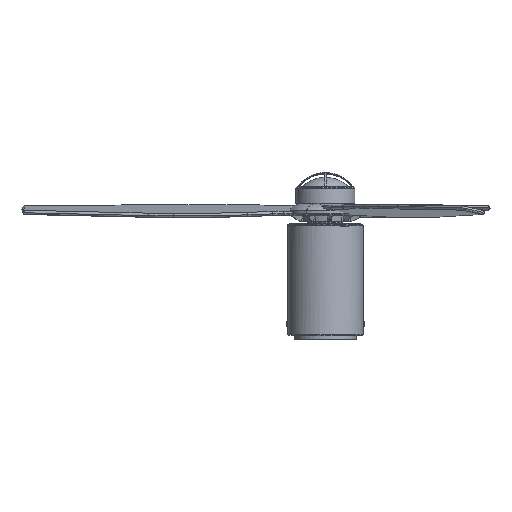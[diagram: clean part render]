
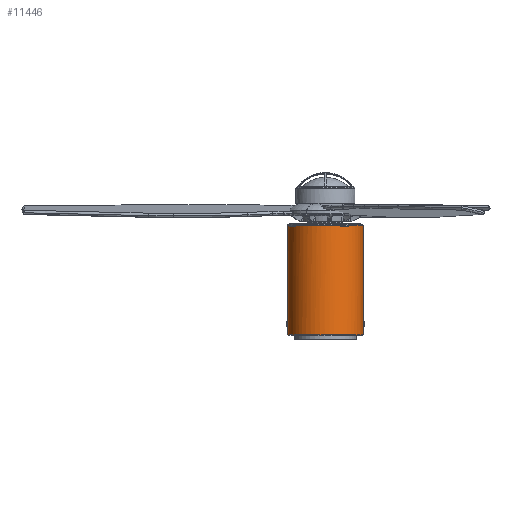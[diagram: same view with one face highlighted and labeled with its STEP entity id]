
A CAD part, left-side view. The second image highlights one B-rep face of the part: STEP entity #11446.
In plain terms, the highlighted cylindrical face has radius 80 mm (diameter 159.999 mm), a partial arc.
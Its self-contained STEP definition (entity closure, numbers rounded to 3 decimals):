
#1102=FACE_OUTER_BOUND('',#1863,.T.);
#1863=EDGE_LOOP('',(#9502,#9503,#9504,#9505));
#2543=B_SPLINE_CURVE_WITH_KNOTS('',3,(#22567,#22568,#22569,#22570,#22571,
#22572,#22573,#22574,#22575,#22576,#22577),.UNSPECIFIED.,.F.,.F.,(4,1,1,
1,1,1,1,1,4),(0.,0.125,0.25,0.375,0.5,0.625,0.75,0.875,1.),
 .UNSPECIFIED.);
#2590=B_SPLINE_CURVE_WITH_KNOTS('',3,(#23176,#23177,#23178,#23179,#23180,
#23181,#23182,#23183,#23184,#23185,#23186),.UNSPECIFIED.,.F.,.F.,(4,1,1,
1,1,1,1,1,4),(0.,0.125,0.25,0.375,0.5,0.625,0.75,0.875,1.),
 .UNSPECIFIED.);
#3707=LINE('',#23188,#4254);
#3708=LINE('',#23189,#4255);
#4254=VECTOR('',#14516,304.8);
#4255=VECTOR('',#14517,304.8);
#5095=VERTEX_POINT('',#22420);
#5096=VERTEX_POINT('',#22421);
#5141=VERTEX_POINT('',#23058);
#5142=VERTEX_POINT('',#23111);
#6594=EDGE_CURVE('',#5096,#5095,#2543,.T.);
#6647=EDGE_CURVE('',#5141,#5142,#2590,.T.);
#6648=EDGE_CURVE('',#5095,#5141,#3707,.T.);
#6649=EDGE_CURVE('',#5142,#5096,#3708,.T.);
#9502=ORIENTED_EDGE('',*,*,#6647,.T.);
#9503=ORIENTED_EDGE('',*,*,#6649,.T.);
#9504=ORIENTED_EDGE('',*,*,#6594,.T.);
#9505=ORIENTED_EDGE('',*,*,#6648,.T.);
#10919=CYLINDRICAL_SURFACE('',#12406,80.);
#11446=ADVANCED_FACE('',(#1102),#10919,.T.);
#12406=AXIS2_PLACEMENT_3D('',#23190,#14518,#14519);
#14516=DIRECTION('',(0.,0.,1.));
#14517=DIRECTION('',(0.,0.,-1.));
#14518=DIRECTION('center_axis',(0.,0.,1.));
#14519=DIRECTION('ref_axis',(0.,1.,0.));
#22420=CARTESIAN_POINT('',(0.,-80.,10.169));
#22421=CARTESIAN_POINT('',(0.,80.,10.169));
#22567=CARTESIAN_POINT('Ctrl Pts',(0.,80.,10.169));
#22568=CARTESIAN_POINT('Ctrl Pts',(-10.514,80.105,10.169));
#22569=CARTESIAN_POINT('Ctrl Pts',(-31.391,75.785,10.169));
#22570=CARTESIAN_POINT('Ctrl Pts',(-58.046,58.054,10.169));
#22571=CARTESIAN_POINT('Ctrl Pts',(-75.833,31.408,10.169));
#22572=CARTESIAN_POINT('Ctrl Pts',(-82.083,0.,
10.169));
#22573=CARTESIAN_POINT('Ctrl Pts',(-75.833,-31.408,
10.169));
#22574=CARTESIAN_POINT('Ctrl Pts',(-58.046,-58.054,
10.169));
#22575=CARTESIAN_POINT('Ctrl Pts',(-31.391,-75.785,
10.169));
#22576=CARTESIAN_POINT('Ctrl Pts',(-10.514,-80.105,10.169));
#22577=CARTESIAN_POINT('Ctrl Pts',(0.,-80.,
10.169));
#23058=CARTESIAN_POINT('',(0.,-80.,242.614));
#23111=CARTESIAN_POINT('',(0.,80.,242.614));
#23176=CARTESIAN_POINT('Ctrl Pts',(0.,-80.,
242.614));
#23177=CARTESIAN_POINT('Ctrl Pts',(-10.514,-80.105,
242.614));
#23178=CARTESIAN_POINT('Ctrl Pts',(-31.391,-75.785,
242.614));
#23179=CARTESIAN_POINT('Ctrl Pts',(-58.046,-58.054,
242.614));
#23180=CARTESIAN_POINT('Ctrl Pts',(-75.833,-31.408,
242.614));
#23181=CARTESIAN_POINT('Ctrl Pts',(-82.083,0.,
242.614));
#23182=CARTESIAN_POINT('Ctrl Pts',(-75.833,31.408,242.614));
#23183=CARTESIAN_POINT('Ctrl Pts',(-58.046,58.054,242.614));
#23184=CARTESIAN_POINT('Ctrl Pts',(-31.391,75.785,242.614));
#23185=CARTESIAN_POINT('Ctrl Pts',(-10.514,80.105,242.614));
#23186=CARTESIAN_POINT('Ctrl Pts',(0.,80.,
242.614));
#23188=CARTESIAN_POINT('',(0.,-80.,10.169));
#23189=CARTESIAN_POINT('',(0.,80.,242.614));
#23190=CARTESIAN_POINT('Origin',(0.,0.,1792.792));
